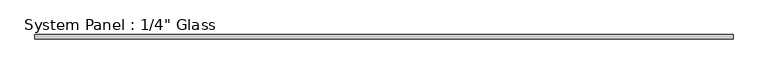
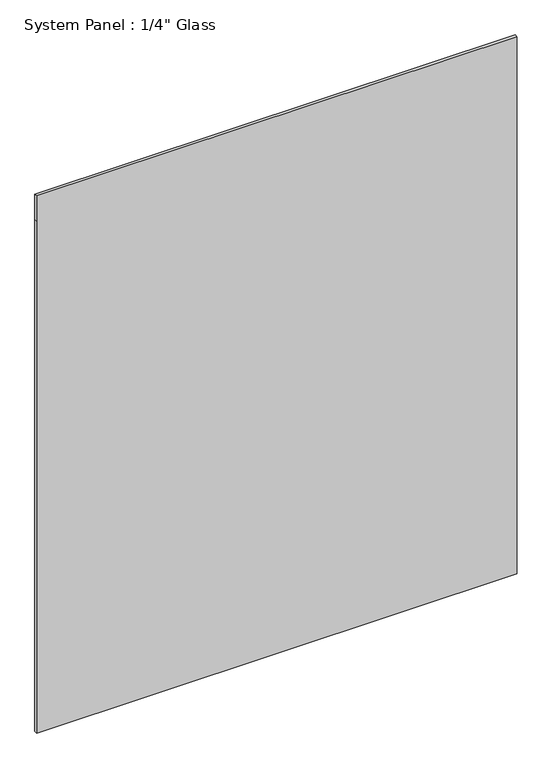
"""IFC4 building model written with IfcOpenShell, lengths in millimetres: plate geometry."""

import ifcopenshell
import ifcopenshell.guid

model = None  # the IFC model being written
_history = None  # IfcOwnerHistory: only IFC2X3 demands one
_inside = {}  # id of a spatial element -> (the spatial element, [elements in it])
_under = {}  # id of a project, library or spatial element -> (it, [spatial elements below it])
_declared = {}  # id of a project -> (the project, [libraries it declares])
_typed = {}  # id of a type object -> (the type object, [elements of that type])
_made_of = {}  # id of a material, layer set ... -> (it, [elements and type objects made of it])


def new_model(schema):
    """Start an empty IFC model of exactly this schema.

    Asked for "IFC4X3", IfcOpenShell would pick the latest addendum, in which some entities
    have other attributes; the version numbers below select the first issue.
    IFC2X3 requires an IfcOwnerHistory on every rooted entity: one is made here for all.
    """
    global model, _history
    if schema == "IFC4X3":
        model = ifcopenshell.file(schema_version=(4, 3, 0, 0))
    else:
        model = ifcopenshell.file(schema=schema)
    _inside.clear()
    _under.clear()
    _declared.clear()
    _typed.clear()
    _made_of.clear()
    _history = None
    if model.schema == "IFC2X3":
        org = make("IfcOrganization", Name="unknown")
        user = make(
            "IfcPersonAndOrganization",
            ThePerson=make("IfcPerson", FamilyName="unknown"),
            TheOrganization=org,
        )
        app = make(
            "IfcApplication",
            ApplicationDeveloper=org,
            Version="unknown",
            ApplicationFullName="unknown",
            ApplicationIdentifier="unknown",
        )
        _history = make(
            "IfcOwnerHistory",
            OwningUser=user,
            OwningApplication=app,
            ChangeAction="ADDED",
            CreationDate=0,
        )
    return model


def make(cls, **values):
    """One entity of the class cls with the attributes given. An attribute that is None is left unset."""
    return model.create_entity(
        cls, **{name: value for name, value in values.items() if value is not None}
    )


def rooted(cls, **values):
    """An entity with a GlobalId (a new one), such as an element, a storey or a relation."""
    return make(cls, GlobalId=ifcopenshell.guid.new(), OwnerHistory=_history, **values)


def si_unit(unit_type, name, prefix=None):
    """IfcSIUnit, for example si_unit("LENGTHUNIT", "METRE", prefix="MILLI")."""
    return make("IfcSIUnit", UnitType=unit_type, Prefix=prefix, Name=name)


def assignment(units):
    """IfcUnitAssignment: the units of a project."""
    return None if units is None else make("IfcUnitAssignment", Units=units)


def point(xyz):
    """IfcCartesianPoint."""
    return None if xyz is None else make("IfcCartesianPoint", Coordinates=xyz)


def direction(xyz):
    """IfcDirection."""
    return None if xyz is None else make("IfcDirection", DirectionRatios=xyz)


def frame(location, z_axis=None, x_axis=None):
    """IfcAxis2Placement3D, a coordinate frame: its origin and axes. An axis left out is left unset."""
    return make(
        "IfcAxis2Placement3D",
        Location=point(location),
        Axis=direction(z_axis),
        RefDirection=direction(x_axis),
    )


def origin():
    """The frame at (0, 0, 0) with its axes left unset."""
    return frame((0.0, 0.0, 0.0))


def place(relative_to, where):
    """IfcLocalPlacement: puts the frame where relative to a parent placement (None: the world)."""
    return make(
        "IfcLocalPlacement", PlacementRelTo=relative_to, RelativePlacement=where
    )


def context(
    kind, dimensions, precision=None, world=None, true_north=None, identifier=None
):
    """IfcGeometricRepresentationContext, for example the 3D "Model" context."""
    return make(
        "IfcGeometricRepresentationContext",
        ContextIdentifier=identifier,
        ContextType=kind,
        CoordinateSpaceDimension=dimensions,
        Precision=precision,
        WorldCoordinateSystem=world,
        TrueNorth=true_north,
    )


def project(units=None, contexts=None):
    """IfcProject with its units and contexts."""
    return rooted(
        "IfcProject",
        Name="project",
        RepresentationContexts=contexts,
        UnitsInContext=assignment(units),
    )


def spatial(cls, under=None, at=None, **own):
    """A site, building, storey or space (cls), placed at a placement, below another one or the project."""
    s = rooted(cls, ObjectPlacement=at, **own)
    if under is not None:
        _under.setdefault(under.id(), (under, []))[1].append(s)
    return s


def polyline(points):
    """IfcPolyline through the points."""
    return make("IfcPolyline", Points=[point(p) for p in points])


def outline(outer, holes=None, kind="AREA"):
    """IfcArbitraryClosedProfileDef: a profile drawn as a closed curve; with holes, ...WithVoids."""
    if holes is None:
        return make("IfcArbitraryClosedProfileDef", ProfileType=kind, OuterCurve=outer)
    return make(
        "IfcArbitraryProfileDefWithVoids",
        ProfileType=kind,
        OuterCurve=outer,
        InnerCurves=holes,
    )


def extrude(swept, where, along, depth):
    """IfcExtrudedAreaSolid: the profile swept, set in the frame where, extruded along a direction by depth."""
    return make(
        "IfcExtrudedAreaSolid",
        SweptArea=swept,
        Position=where,
        ExtrudedDirection=direction(along),
        Depth=depth,
    )


def shape(context_of_items, identifier, shape_type, items):
    """IfcShapeRepresentation: the items that make up one representation, for example the "Body"."""
    return make(
        "IfcShapeRepresentation",
        ContextOfItems=context_of_items,
        RepresentationIdentifier=identifier,
        RepresentationType=shape_type,
        Items=items,
    )


def source(mapping_origin, context_of_items, identifier, shape_type, items):
    """IfcRepresentationMap: a shape defined once, which mapped items show again and again."""
    return make(
        "IfcRepresentationMap",
        MappingOrigin=mapping_origin,
        MappedRepresentation=shape(context_of_items, identifier, shape_type, items),
    )


def transform(
    local_origin,
    x_axis=None,
    y_axis=None,
    z_axis=None,
    scale=None,
    scale2=None,
    scale3=None,
    uniform=True,
):
    """IfcCartesianTransformationOperator3D, or its non-uniform kind. x_axis, y_axis, z_axis: its Axis1, 2, 3."""
    if uniform:
        return make(
            "IfcCartesianTransformationOperator3D",
            Axis1=direction(x_axis),
            Axis2=direction(y_axis),
            LocalOrigin=point(local_origin),
            Scale=scale,
            Axis3=direction(z_axis),
        )
    return make(
        "IfcCartesianTransformationOperator3DnonUniform",
        Axis1=direction(x_axis),
        Axis2=direction(y_axis),
        LocalOrigin=point(local_origin),
        Scale=scale,
        Axis3=direction(z_axis),
        Scale2=scale2,
        Scale3=scale3,
    )


def mapped(mapping_source, mapping_target):
    """IfcMappedItem: shows the shape of a source again, moved by a transform."""
    return make(
        "IfcMappedItem", MappingSource=mapping_source, MappingTarget=mapping_target
    )


def made_of(thing, what):
    """Note that an element or type object is made of a material, layer set ...; save() writes the relation."""
    if what is not None:
        _made_of.setdefault(what.id(), (what, []))[1].append(thing)
    return thing


def element(
    cls,
    number,
    at=None,
    inside=None,
    cuts=None,
    type_object=None,
    material=None,
    context=None,
    identifier="Body",
    shape_type=None,
    held_by="IfcProductDefinitionShape",
    body=None,
    shapes=None,
    **own,
):
    """One element of the class cls, such as IfcWall. Its Tag is "e" and its number.

    at: its placement. inside: the storey or other place that contains it. cuts: it is an
    opening in that element (IfcRelVoidsElement). A single representation is given by context,
    identifier, shape_type and body (its items); several are given by shapes. held_by: the class
    of the entity that holds the representations. save() writes the other relations.
    """
    e = rooted(cls, Tag="e%d" % number, ObjectPlacement=at, **own)
    if body is not None:
        shapes = [shape(context, identifier, shape_type, body)]
    if shapes is not None:
        e.Representation = make(held_by, Representations=shapes)
    if inside is not None:
        _inside.setdefault(inside.id(), (inside, []))[1].append(e)
    if cuts is not None:
        rooted(
            "IfcRelVoidsElement", RelatingBuildingElement=cuts, RelatedOpeningElement=e
        )
    if type_object is not None:
        _typed.setdefault(type_object.id(), (type_object, []))[1].append(e)
    return made_of(e, material)


def aggregate(whole, parts):
    """IfcRelAggregates: a whole, such as a stair, and the parts it consists of."""
    return rooted("IfcRelAggregates", RelatingObject=whole, RelatedObjects=parts)


def save(model, path):
    """Write the relations noted so far, then the file.

    IfcRelAggregates (storeys below a building ...), IfcRelContainedInSpatialStructure (elements
    in a storey), IfcRelDefinesByType, IfcRelAssociatesMaterial and IfcRelDeclares: one each for
    every whole, place, type object, material and project.
    """
    for whole, parts in _under.values():
        aggregate(whole, parts)
    for where, things in _inside.values():
        rooted(
            "IfcRelContainedInSpatialStructure",
            RelatedElements=things,
            RelatingStructure=where,
        )
    for kind, things in _typed.values():
        rooted("IfcRelDefinesByType", RelatedObjects=things, RelatingType=kind)
    for what, things in _made_of.values():
        rooted("IfcRelAssociatesMaterial", RelatedObjects=things, RelatingMaterial=what)
    for by, libraries in _declared.values():
        rooted("IfcRelDeclares", RelatingContext=by, RelatedDefinitions=libraries)
    model.write(path)


def plate_fc387e76(model_context):
    return source(origin(), model_context, "Body", "SweptSolid", [
        extrude(outline(polyline([(0.0, -525.8680918), (0.0, 525.8680918), (1184.275, 525.8680918), (1242.5844027, 525.8680918), (1242.5844027, -525.8680918), (1184.275, -525.8680918), (0.0, -525.8680918)])), frame((0.0, -3.175, 0.0), z_axis=(0.0, 1.0, 0.0), x_axis=(0.0, 0.0, 1.0)), (0.0, 0.0, 1.0), 6.35),
    ])


if __name__ == "__main__":
    model = new_model("IFC4")
    model_context = context("Model", 3, world=origin())
    ifc_project = project(units=[si_unit("LENGTHUNIT", "METRE", prefix="MILLI")], contexts=[model_context])
    site = spatial("IfcSite", under=ifc_project)
    building = spatial("IfcBuilding", under=site)
    placement = place(None, origin())
    plate_shape = plate_fc387e76(model_context)
    element("IfcPlate", 1, ObjectType="System Panel : 1/4\" Glass", at=placement, inside=building, context=model_context, shape_type="MappedRepresentation", body=[
        mapped(plate_shape, transform((0.0, 0.0, 0.0), x_axis=(1.0, 0.0, 0.0), y_axis=(0.0, 1.0, 0.0), z_axis=(0.0, 0.0, 1.0))),
    ])
    save(model, "model.ifc")
